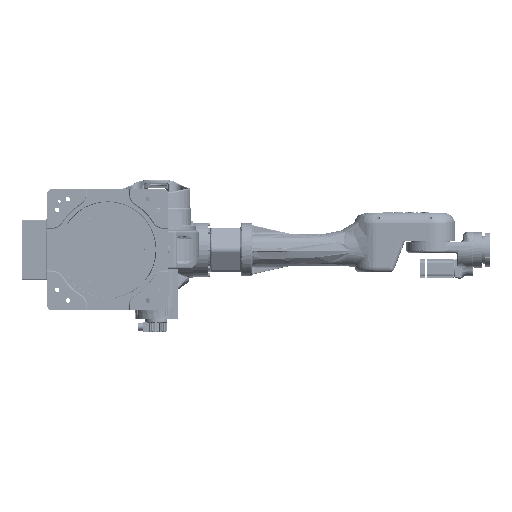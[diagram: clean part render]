
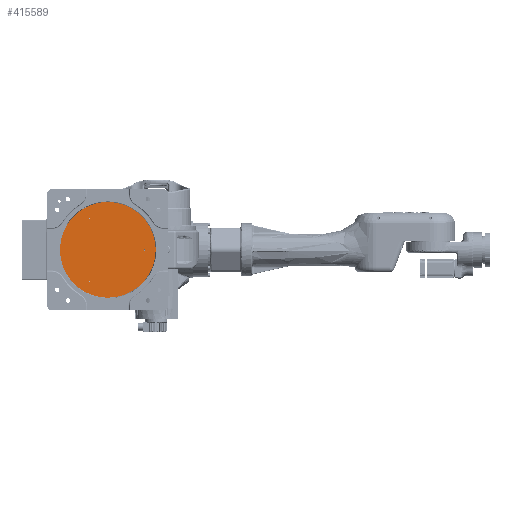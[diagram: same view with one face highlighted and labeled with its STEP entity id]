
A CAD part, front view. The second image highlights one B-rep face of the part: STEP entity #415589.
In plain terms, the highlighted planar face has unit normal (0, -1, 0).
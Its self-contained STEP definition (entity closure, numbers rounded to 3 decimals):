
#8340 = CIRCLE ( 'NONE', #303209, 3.25 ) ;
#12421 = VERTEX_POINT ( 'NONE', #252223 ) ;
#14903 = EDGE_CURVE ( 'NONE', #23958, #323183, #277156, .T. ) ;
#15323 = CARTESIAN_POINT ( 'NONE',  ( -75., 12., 129.904 ) ) ;
#15600 = EDGE_CURVE ( 'NONE', #291437, #52596, #118625, .T. ) ;
#22563 = EDGE_LOOP ( 'NONE', ( #263465, #416059 ) ) ;
#23958 = VERTEX_POINT ( 'NONE', #41609 ) ;
#24729 = DIRECTION ( 'NONE',  ( -0.866, 0., 0.5 ) ) ;
#38776 = CARTESIAN_POINT ( 'NONE',  ( -72.185, 12., -131.529 ) ) ;
#41609 = CARTESIAN_POINT ( 'NONE',  ( -72.185, 12., 128.279 ) ) ;
#43069 = CARTESIAN_POINT ( 'NONE',  ( 150., 12., 0. ) ) ;
#43435 = VERTEX_POINT ( 'NONE', #236292 ) ;
#52596 = VERTEX_POINT ( 'NONE', #172041 ) ;
#53974 = AXIS2_PLACEMENT_3D ( 'NONE', #373482, #246860, #84496 ) ;
#56506 = CIRCLE ( 'NONE', #389027, 3.25 ) ;
#72044 = EDGE_LOOP ( 'NONE', ( #217859, #420254 ) ) ;
#73685 = AXIS2_PLACEMENT_3D ( 'NONE', #272232, #334880, #105633 ) ;
#84496 = DIRECTION ( 'NONE',  ( -0.866, 0., 0.5 ) ) ;
#96324 = CARTESIAN_POINT ( 'NONE',  ( 0., 12., 0. ) ) ;
#99453 = ORIENTED_EDGE ( 'NONE', *, *, #280870, .T. ) ;
#105633 = DIRECTION ( 'NONE',  ( -0.866, 0., 0.5 ) ) ;
#110675 = EDGE_CURVE ( 'NONE', #237911, #43435, #283495, .T. ) ;
#116543 = CARTESIAN_POINT ( 'NONE',  ( -75., 12., -129.904 ) ) ;
#117977 = DIRECTION ( 'NONE',  ( -0.866, 0., 0.5 ) ) ;
#118625 = CIRCLE ( 'NONE', #313497, 3.25 ) ;
#119072 = AXIS2_PLACEMENT_3D ( 'NONE', #96324, #288634, #124822 ) ;
#124682 = CIRCLE ( 'NONE', #407361, 3.25 ) ;
#124822 = DIRECTION ( 'NONE',  ( -0.866, 0., 0.5 ) ) ;
#131660 = CARTESIAN_POINT ( 'NONE',  ( -171.04, 12., 98.75 ) ) ;
#143457 = DIRECTION ( 'NONE',  ( 0., 1., 0. ) ) ;
#146761 = CARTESIAN_POINT ( 'NONE',  ( 152.815, 12., -1.625 ) ) ;
#151480 = CARTESIAN_POINT ( 'NONE',  ( 0., 12., 0. ) ) ;
#154974 = EDGE_CURVE ( 'NONE', #52596, #291437, #124682, .T. ) ;
#172041 = CARTESIAN_POINT ( 'NONE',  ( -77.815, 12., -128.279 ) ) ;
#179986 = FACE_BOUND ( 'NONE', #357888, .T. ) ;
#185651 = DIRECTION ( 'NONE',  ( 0., 1., 0. ) ) ;
#190147 = FACE_BOUND ( 'NONE', #72044, .T. ) ;
#217859 = ORIENTED_EDGE ( 'NONE', *, *, #362629, .T. ) ;
#218441 = PLANE ( 'NONE',  #343599 ) ;
#218453 = EDGE_LOOP ( 'NONE', ( #409833, #99453 ) ) ;
#226215 = CARTESIAN_POINT ( 'NONE',  ( -75., 12., -129.904 ) ) ;
#226781 = DIRECTION ( 'NONE',  ( -0.866, 0., 0.5 ) ) ;
#230221 = EDGE_CURVE ( 'NONE', #12421, #387760, #282642, .T. ) ;
#236292 = CARTESIAN_POINT ( 'NONE',  ( 171.04, 12., -98.75 ) ) ;
#237911 = VERTEX_POINT ( 'NONE', #131660 ) ;
#246249 = FACE_OUTER_BOUND ( 'NONE', #22563, .T. ) ;
#246860 = DIRECTION ( 'NONE',  ( 0., 1., 0. ) ) ;
#252223 = CARTESIAN_POINT ( 'NONE',  ( 147.185, 12., 1.625 ) ) ;
#262069 = CARTESIAN_POINT ( 'NONE',  ( -77.815, 12., 131.529 ) ) ;
#263465 = ORIENTED_EDGE ( 'NONE', *, *, #369778, .F. ) ;
#264544 = DIRECTION ( 'NONE',  ( 0., 1., 0. ) ) ;
#272232 = CARTESIAN_POINT ( 'NONE',  ( 0., 12., 0. ) ) ;
#275033 = CARTESIAN_POINT ( 'NONE',  ( 150., 12., 0. ) ) ;
#277156 = CIRCLE ( 'NONE', #53974, 3.25 ) ;
#280870 = EDGE_CURVE ( 'NONE', #387760, #12421, #56506, .T. ) ;
#282642 = CIRCLE ( 'NONE', #369792, 3.25 ) ;
#283495 = CIRCLE ( 'NONE', #73685, 197.5 ) ;
#288634 = DIRECTION ( 'NONE',  ( 0., 1., 0. ) ) ;
#289384 = ORIENTED_EDGE ( 'NONE', *, *, #154974, .T. ) ;
#291437 = VERTEX_POINT ( 'NONE', #38776 ) ;
#303209 = AXIS2_PLACEMENT_3D ( 'NONE', #15323, #143457, #334366 ) ;
#303709 = DIRECTION ( 'NONE',  ( 0., 1., 0. ) ) ;
#313079 = DIRECTION ( 'NONE',  ( 0., 1., 0. ) ) ;
#313497 = AXIS2_PLACEMENT_3D ( 'NONE', #226215, #264544, #392645 ) ;
#323183 = VERTEX_POINT ( 'NONE', #262069 ) ;
#334366 = DIRECTION ( 'NONE',  ( -0.866, 0., 0.5 ) ) ;
#334880 = DIRECTION ( 'NONE',  ( 0., 1., 0. ) ) ;
#343599 = AXIS2_PLACEMENT_3D ( 'NONE', #151480, #185651, #24729 ) ;
#357888 = EDGE_LOOP ( 'NONE', ( #289384, #385927 ) ) ;
#362629 = EDGE_CURVE ( 'NONE', #323183, #23958, #8340, .T. ) ;
#369778 = EDGE_CURVE ( 'NONE', #43435, #237911, #376417, .T. ) ;
#369792 = AXIS2_PLACEMENT_3D ( 'NONE', #275033, #412921, #374715 ) ;
#373482 = CARTESIAN_POINT ( 'NONE',  ( -75., 12., 129.904 ) ) ;
#374715 = DIRECTION ( 'NONE',  ( -0.866, 0., 0.5 ) ) ;
#376417 = CIRCLE ( 'NONE', #119072, 197.5 ) ;
#385927 = ORIENTED_EDGE ( 'NONE', *, *, #15600, .T. ) ;
#387760 = VERTEX_POINT ( 'NONE', #146761 ) ;
#388678 = FACE_BOUND ( 'NONE', #218453, .T. ) ;
#389027 = AXIS2_PLACEMENT_3D ( 'NONE', #43069, #303709, #226781 ) ;
#392645 = DIRECTION ( 'NONE',  ( -0.866, 0., 0.5 ) ) ;
#407361 = AXIS2_PLACEMENT_3D ( 'NONE', #116543, #313079, #117977 ) ;
#409833 = ORIENTED_EDGE ( 'NONE', *, *, #230221, .T. ) ;
#412921 = DIRECTION ( 'NONE',  ( 0., 1., 0. ) ) ;
#415589 = ADVANCED_FACE ( 'NONE', ( #388678, #190147, #179986, #246249 ), #218441, .F. ) ;
#416059 = ORIENTED_EDGE ( 'NONE', *, *, #110675, .F. ) ;
#420254 = ORIENTED_EDGE ( 'NONE', *, *, #14903, .T. ) ;
